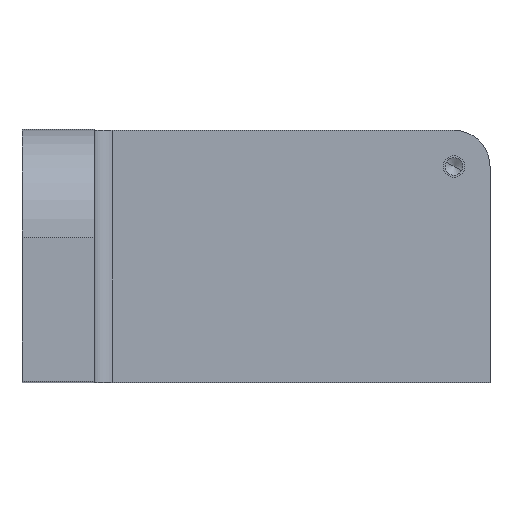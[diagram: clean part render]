
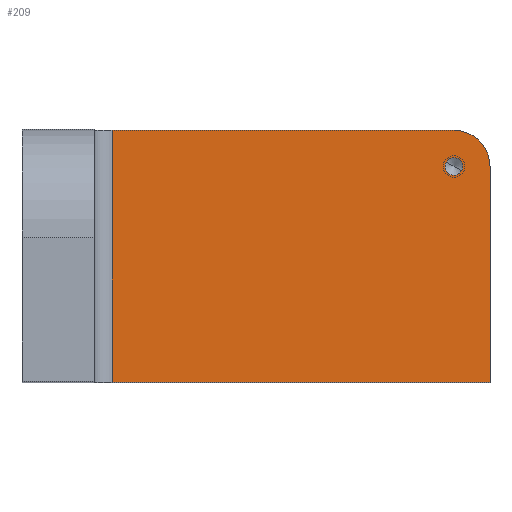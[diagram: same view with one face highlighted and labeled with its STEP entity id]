
A CAD part, top view. The second image highlights one B-rep face of the part: STEP entity #209.
In plain terms, the highlighted planar face has unit normal (0, 0, 1).
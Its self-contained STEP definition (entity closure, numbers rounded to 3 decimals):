
#144=CARTESIAN_POINT('Axis2P3D Location',(0.,0.,20.)) ;
#149=CARTESIAN_POINT('Line Origine',(77.5,0.,20.)) ;
#153=CARTESIAN_POINT('Vertex',(25.,0.,20.)) ;
#155=CARTESIAN_POINT('Vertex',(130.,0.,20.)) ;
#158=CARTESIAN_POINT('Line Origine',(130.,30.,20.)) ;
#162=CARTESIAN_POINT('Vertex',(130.,60.,20.)) ;
#165=CARTESIAN_POINT('Axis2P3D Location',(120.,60.,20.)) ;
#169=CARTESIAN_POINT('Vertex',(120.,70.,20.)) ;
#172=CARTESIAN_POINT('Line Origine',(72.5,70.,20.)) ;
#176=CARTESIAN_POINT('Vertex',(25.,70.,20.)) ;
#179=CARTESIAN_POINT('Line Origine',(25.,35.,20.)) ;
#191=CARTESIAN_POINT('Axis2P3D Location',(120.,60.,20.)) ;
#195=CARTESIAN_POINT('Vertex',(117.842,61.179,20.)) ;
#197=CARTESIAN_POINT('Vertex',(122.158,58.821,20.)) ;
#200=CARTESIAN_POINT('Axis2P3D Location',(120.,60.,20.)) ;
#145=DIRECTION('Axis2P3D Direction',(0.,0.,1.)) ;
#146=DIRECTION('Axis2P3D XDirection',(1.,0.,0.)) ;
#150=DIRECTION('Vector Direction',(1.,0.,0.)) ;
#159=DIRECTION('Vector Direction',(0.,1.,0.)) ;
#166=DIRECTION('Axis2P3D Direction',(0.,0.,1.)) ;
#173=DIRECTION('Vector Direction',(-1.,0.,0.)) ;
#180=DIRECTION('Vector Direction',(0.,-1.,0.)) ;
#192=DIRECTION('Axis2P3D Direction',(0.,0.,1.)) ;
#201=DIRECTION('Axis2P3D Direction',(0.,0.,1.)) ;
#147=AXIS2_PLACEMENT_3D('Plane Axis2P3D',#144,#145,#146) ;
#167=AXIS2_PLACEMENT_3D('Circle Axis2P3D',#165,#166,$) ;
#193=AXIS2_PLACEMENT_3D('Circle Axis2P3D',#191,#192,$) ;
#202=AXIS2_PLACEMENT_3D('Circle Axis2P3D',#200,#201,$) ;
#185=ORIENTED_EDGE('',*,*,#157,.T.) ;
#186=ORIENTED_EDGE('',*,*,#164,.T.) ;
#187=ORIENTED_EDGE('',*,*,#171,.T.) ;
#188=ORIENTED_EDGE('',*,*,#178,.T.) ;
#189=ORIENTED_EDGE('',*,*,#183,.F.) ;
#206=ORIENTED_EDGE('',*,*,#199,.F.) ;
#207=ORIENTED_EDGE('',*,*,#204,.F.) ;
#208=FACE_BOUND('',#205,.T.) ;
#151=VECTOR('Line Direction',#150,1.) ;
#160=VECTOR('Line Direction',#159,1.) ;
#174=VECTOR('Line Direction',#173,1.) ;
#181=VECTOR('Line Direction',#180,1.) ;
#209=ADVANCED_FACE('PartBody',(#190,#208),#148,.T.) ;
#168=CIRCLE('generated circle',#167,10.) ;
#194=CIRCLE('generated circle',#193,2.459) ;
#203=CIRCLE('generated circle',#202,2.459) ;
#157=EDGE_CURVE('',#154,#156,#152,.T.) ;
#164=EDGE_CURVE('',#156,#163,#161,.T.) ;
#171=EDGE_CURVE('',#163,#170,#168,.T.) ;
#178=EDGE_CURVE('',#170,#177,#175,.T.) ;
#183=EDGE_CURVE('',#154,#177,#182,.F.) ;
#199=EDGE_CURVE('',#196,#198,#194,.T.) ;
#204=EDGE_CURVE('',#198,#196,#203,.T.) ;
#184=EDGE_LOOP('',(#185,#186,#187,#188,#189)) ;
#205=EDGE_LOOP('',(#206,#207)) ;
#190=FACE_OUTER_BOUND('',#184,.T.) ;
#152=LINE('Line',#149,#151) ;
#161=LINE('Line',#158,#160) ;
#175=LINE('Line',#172,#174) ;
#182=LINE('Line',#179,#181) ;
#148=PLANE('',#147) ;
#154=VERTEX_POINT('',#153) ;
#156=VERTEX_POINT('',#155) ;
#163=VERTEX_POINT('',#162) ;
#170=VERTEX_POINT('',#169) ;
#177=VERTEX_POINT('',#176) ;
#196=VERTEX_POINT('',#195) ;
#198=VERTEX_POINT('',#197) ;
